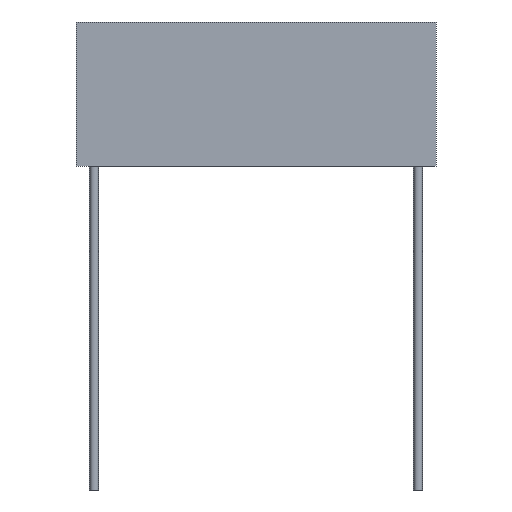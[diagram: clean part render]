
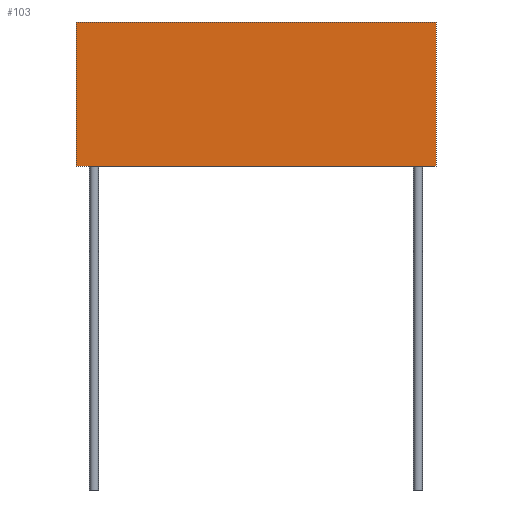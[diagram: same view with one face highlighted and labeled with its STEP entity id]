
A CAD part, front view. The second image highlights one B-rep face of the part: STEP entity #103.
In plain terms, the highlighted planar face has unit normal (0, -1, 0).
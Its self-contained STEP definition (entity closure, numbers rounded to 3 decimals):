
#103=ADVANCED_FACE('',(#183),#185,.F.);
#183=FACE_BOUND('',#184,.T.);
#184=EDGE_LOOP('',(#250,#251,#252,#253));
#185=PLANE('',#186);
#186=AXIS2_PLACEMENT_3D('',#187,#188,#189);
#187=CARTESIAN_POINT('',(0.,-1.7,0.));
#188=DIRECTION('',(0.,1.,0.));
#189=DIRECTION('',(-1.,0.,0.));
#250=ORIENTED_EDGE('',*,*,#271,.F.);
#251=ORIENTED_EDGE('',*,*,#277,.F.);
#252=ORIENTED_EDGE('',*,*,#268,.F.);
#253=ORIENTED_EDGE('',*,*,#274,.F.);
#268=EDGE_CURVE('',#294,#295,#296,.T.);
#271=EDGE_CURVE('',#299,#300,#301,.T.);
#274=EDGE_CURVE('',#300,#294,#304,.T.);
#277=EDGE_CURVE('',#295,#299,#308,.T.);
#294=VERTEX_POINT('',#340);
#295=VERTEX_POINT('',#341);
#296=LINE('',#342,#343);
#299=VERTEX_POINT('',#351);
#300=VERTEX_POINT('',#352);
#301=LINE('',#353,#354);
#304=LINE('',#362,#363);
#308=LINE('',#374,#375);
#340=CARTESIAN_POINT('',(10.,-1.7,8.));
#341=CARTESIAN_POINT('',(10.,-1.7,0.));
#342=CARTESIAN_POINT('',(10.,-1.7,8.));
#343=VECTOR('',#344,1.);
#344=DIRECTION('',(0.,0.,-1.));
#351=CARTESIAN_POINT('',(-10.,-1.7,0.));
#352=CARTESIAN_POINT('',(-10.,-1.7,8.));
#353=CARTESIAN_POINT('',(-10.,-1.7,0.));
#354=VECTOR('',#355,1.);
#355=DIRECTION('',(0.,0.,1.));
#362=CARTESIAN_POINT('',(-10.,-1.7,8.));
#363=VECTOR('',#364,1.);
#364=DIRECTION('',(1.,0.,0.));
#374=CARTESIAN_POINT('',(10.,-1.7,0.));
#375=VECTOR('',#376,1.);
#376=DIRECTION('',(-1.,0.,0.));
